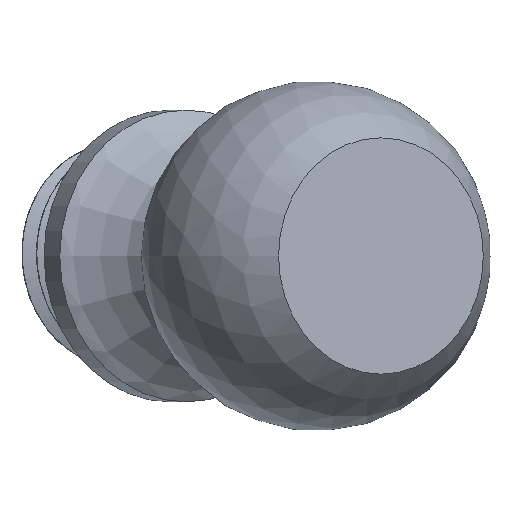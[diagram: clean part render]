
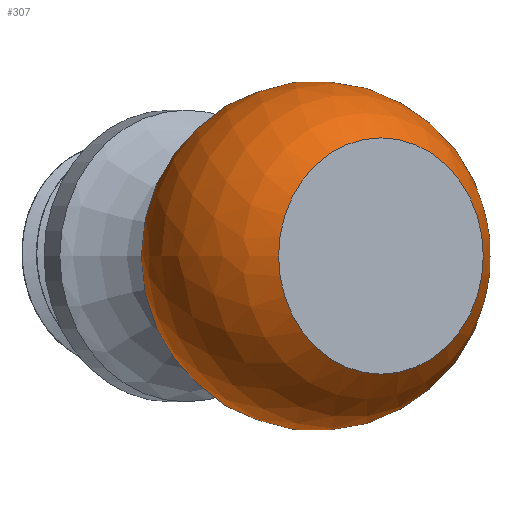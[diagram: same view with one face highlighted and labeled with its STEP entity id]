
A CAD part, front view. The second image highlights one B-rep face of the part: STEP entity #307.
In plain terms, the highlighted spherical face has radius 9 mm.
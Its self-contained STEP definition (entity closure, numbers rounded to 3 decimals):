
#15=SPHERICAL_SURFACE('',#346,9.);
#41=FACE_OUTER_BOUND('',#60,.T.);
#60=EDGE_LOOP('',(#274,#275,#276,#277,#278));
#65=CIRCLE('',#336,5.522);
#66=CIRCLE('',#337,5.522);
#70=CIRCLE('',#345,6.075);
#71=CIRCLE('',#347,9.);
#138=VERTEX_POINT('',#1936);
#140=VERTEX_POINT('',#1950);
#143=VERTEX_POINT('',#1963);
#181=EDGE_CURVE('',#138,#140,#65,.T.);
#182=EDGE_CURVE('',#140,#138,#66,.T.);
#187=EDGE_CURVE('',#143,#143,#70,.T.);
#188=EDGE_CURVE('',#143,#140,#71,.T.);
#274=ORIENTED_EDGE('',*,*,#187,.T.);
#275=ORIENTED_EDGE('',*,*,#188,.T.);
#276=ORIENTED_EDGE('',*,*,#181,.F.);
#277=ORIENTED_EDGE('',*,*,#182,.F.);
#278=ORIENTED_EDGE('',*,*,#188,.F.);
#307=ADVANCED_FACE('',(#41),#15,.T.);
#336=AXIS2_PLACEMENT_3D('',#1951,#386,#387);
#337=AXIS2_PLACEMENT_3D('',#1952,#388,#389);
#345=AXIS2_PLACEMENT_3D('',#1964,#405,#406);
#346=AXIS2_PLACEMENT_3D('',#1965,#407,#408);
#347=AXIS2_PLACEMENT_3D('',#1966,#409,#410);
#386=DIRECTION('center_axis',(-0.5,0.866,0.));
#387=DIRECTION('ref_axis',(0.866,0.5,0.));
#388=DIRECTION('center_axis',(-0.5,0.866,0.));
#389=DIRECTION('ref_axis',(0.866,0.5,0.));
#405=DIRECTION('center_axis',(-0.5,0.866,0.));
#406=DIRECTION('ref_axis',(0.866,0.5,0.));
#407=DIRECTION('center_axis',(0.5,-0.866,0.));
#408=DIRECTION('ref_axis',(0.866,0.5,0.));
#409=DIRECTION('center_axis',(0.,0.,
-1.));
#410=DIRECTION('ref_axis',(-0.866,-0.5,0.));
#1936=CARTESIAN_POINT('',(210.848,106.451,78.706));
#1950=CARTESIAN_POINT('',(206.066,103.69,73.185));
#1951=CARTESIAN_POINT('Origin',(210.848,106.451,73.185));
#1952=CARTESIAN_POINT('Origin',(210.848,106.451,73.185));
#1963=CARTESIAN_POINT('',(212.46,91.508,73.185));
#1964=CARTESIAN_POINT('Origin',(217.721,94.545,73.185));
#1965=CARTESIAN_POINT('Origin',(214.401,100.296,73.185));
#1966=CARTESIAN_POINT('Origin',(214.401,100.296,73.185));
